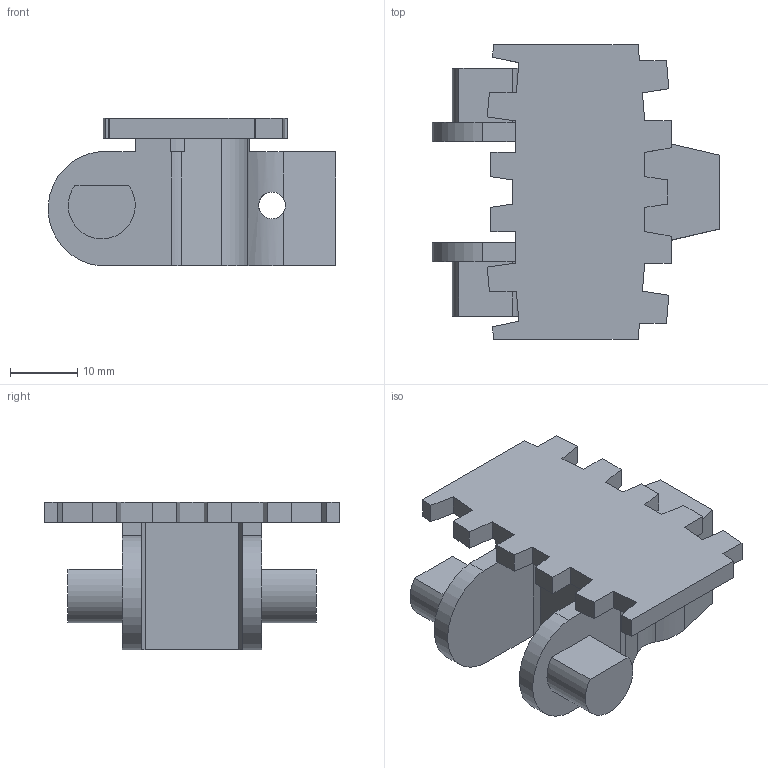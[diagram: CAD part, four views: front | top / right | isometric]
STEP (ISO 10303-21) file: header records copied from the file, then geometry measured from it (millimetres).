
FILE_DESCRIPTION(/* description */ ('Glatte Förderkette mit FDA Zulassung'),/* implementation_level */ '2;1');
FILE_NAME(/* name */ 'T:\vdz0\Step Daten Website\modulflex FS-System\Kettenglieder\FSTP5_FDA_62728.stp',/* time_stamp */ '2024-09-05T09:31:53+02:00',/* author */ ('lzb0'),/* organization */ (''),/* preprocessor_version */ 'ST-DEVELOPER v18.1',/* originating_system */ 'Autodesk Inventor 2021',/* authorisation */ '');
FILE_SCHEMA (('AUTOMOTIVE_DESIGN { 1 0 10303 214 3 1 1 }'));
Length unit declared in the file: millimetre
Products named in the file (1): FSTP5_FDA
Bounding box: 42.87 x 44 x 22 mm (x, y, z)
Volume: 11837.6 mm3; surface area: 6422.8 mm2
Topology: 1 solids, 1 shells, 84 faces, 243 edges, 162 vertices
Faces by surface type: plane 71, cylinder 13
Full cylindrical faces by diameter (mm): 4 x1
Entity records: 2832 total; most frequent: CARTESIAN_POINT 550, ORIENTED_EDGE 486, DIRECTION 437, EDGE_CURVE 243, LINE 211, VECTOR 211, VERTEX_POINT 162, AXIS2_PLACEMENT_3D 113
